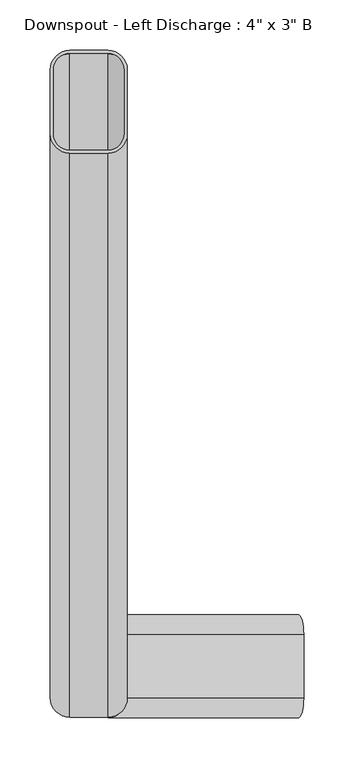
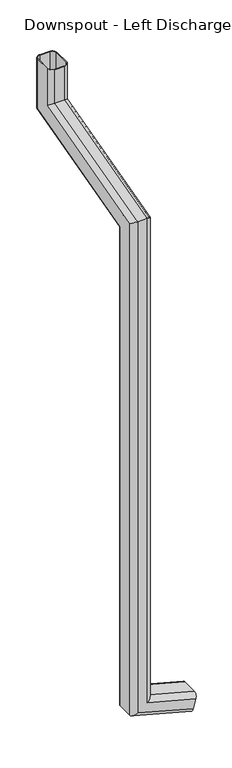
"""IFC4 building model written with IfcOpenShell, lengths in millimetres: proxy geometry."""

from ifc_helpers import new_model, si_unit, frame, origin, place, context, project, spatial, polyline, circle_curve, ellipse_curve, source, transform, mapped, element, save
from ifc_brep_helpers import plane_surface, cylinder_surface, revolved_surface, advanced_brep


def proxy_c430dda0(model_context):
    return source(origin(), model_context, "Body", "AdvancedBrep", [
        advanced_brep(
        [(213.0610056, 171.45, 189.201774), (208.1305028, 152.4, 170.800887), (198.2694972, 152.4, 133.999113), (193.3389944, 171.45, 115.598226), (193.3389944, 234.95, 115.598226), (198.2694972, 254.0, 133.999113), (208.1305028, 254.0, 170.800887), (213.0610056, 234.95, 189.201774), (212.2392552, 171.45, 186.1349595), (212.2392552, 234.95, 186.1349595), (208.1305028, 250.825, 170.800887), (198.2694972, 250.825, 133.999113), (194.1607448, 234.95, 118.6650405), (194.1607448, 171.45, 118.6650405), (198.2694972, 155.575, 133.999113), (208.1305028, 155.575, 170.800887), (19.05, 152.4, 221.464855), (38.1, 171.45, 236.0824341), (38.1, 171.45, 2202.9664149), (19.05, 152.4, 2217.583994), (-38.1, 171.45, 177.6121177), (-19.05, 152.4, 192.2296968), (-19.05, 152.4, 2217.583994), (-38.1, 171.45, 2202.9664149), (-38.1, 234.95, 177.6121177), (-38.1, 730.25, 2352.6964236), (-38.1, 730.25, 2506.1337918), (-38.1, 793.75, 2506.1337918), (-38.1, 793.75, 2303.9711599), (-38.1, 234.95, 2154.2411512), (-19.05, 254.0, 192.2296968), (-19.05, 254.0, 2139.6235721), (38.1, 234.95, 236.0824341), (19.05, 254.0, 221.464855), (19.05, 254.0, 2139.6235721), (38.1, 234.95, 2154.2411512), (38.1, 793.75, 2303.9711599), (38.1, 793.75, 2506.1337918), (38.1, 730.25, 2506.1337918), (38.1, 730.25, 2352.6964236), (34.925, 234.95, 233.646171), (34.925, 171.45, 233.646171), (34.925, 171.45, 2202.9664149), (34.925, 730.25, 2352.6964236), (34.925, 730.25, 2506.1337918), (34.925, 793.75, 2506.1337918), (34.925, 793.75, 2303.9711599), (34.925, 234.95, 2154.2411512), (19.05, 250.825, 221.464855), (19.05, 250.825, 2142.0598352), (-34.925, 234.95, 180.0483808), (-19.05, 250.825, 192.2296968), (-19.05, 250.825, 2142.0598352), (-34.925, 234.95, 2154.2411512), (-34.925, 171.45, 180.0483808), (-34.925, 793.75, 2303.9711599), (-34.925, 793.75, 2506.1337918), (-34.925, 730.25, 2506.1337918), (-34.925, 730.25, 2352.6964236), (-34.925, 171.45, 2202.9664149), (-19.05, 155.575, 192.2296968), (-19.05, 155.575, 2215.1477308), (19.05, 155.575, 221.464855), (19.05, 155.575, 2215.1477308), (19.05, 711.2, 2367.3140028), (-19.05, 711.2, 2367.3140028), (-19.05, 812.8, 2289.3535808), (19.05, 812.8, 2289.3535808), (19.05, 809.625, 2291.789844), (-19.05, 809.625, 2291.789844), (-19.05, 714.375, 2364.8777396), (19.05, 714.375, 2364.8777396), (19.05, 812.8, 2506.1337918), (-19.05, 812.8, 2506.1337918), (-19.05, 711.2, 2506.1337918), (19.05, 711.2, 2506.1337918), (19.05, 714.375, 2506.1337918), (-19.05, 714.375, 2506.1337918), (-19.05, 809.625, 2506.1337918), (19.05, 809.625, 2506.1337918)],
        [
            (0, 1, circle_curve(frame((208.1305028, 171.45, 170.800887), z_axis=(0.9659258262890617, 0.0, -0.2588190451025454), x_axis=(0.0, -1.0, 0.0)), 19.05)),
            (1, 2),
            (2, 3, circle_curve(frame((198.2694972, 171.45, 133.999113), z_axis=(0.9659258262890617, 0.0, -0.2588190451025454), x_axis=(0.0, -1.0, 0.0)), 19.05)),
            (3, 4),
            (4, 5, circle_curve(frame((198.2694972, 234.95, 133.999113), z_axis=(0.9659258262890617, 0.0, -0.2588190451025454), x_axis=(0.0, -1.0, 0.0)), 19.05)),
            (5, 6),
            (6, 7, circle_curve(frame((208.1305028, 234.95, 170.800887), z_axis=(0.9659258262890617, 0.0, -0.2588190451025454), x_axis=(0.0, -1.0, 0.0)), 19.05)),
            (7, 0),
            (8, 9),
            (9, 10, circle_curve(frame((208.1305028, 234.95, 170.800887), z_axis=(-0.9659258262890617, 0.0, 0.2588190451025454), x_axis=(0.0, -1.0, 0.0)), 15.875)),
            (10, 11),
            (11, 12, circle_curve(frame((198.2694972, 234.95, 133.999113), z_axis=(-0.9659258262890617, 0.0, 0.2588190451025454), x_axis=(0.0, -1.0, 0.0)), 15.875)),
            (12, 13),
            (13, 14, circle_curve(frame((198.2694972, 171.45, 133.999113), z_axis=(-0.9659258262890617, 0.0, 0.2588190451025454), x_axis=(0.0, -1.0, 0.0)), 15.875)),
            (14, 15),
            (15, 8, circle_curve(frame((208.1305028, 171.45, 170.800887), z_axis=(-0.9659258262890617, 0.0, 0.2588190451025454), x_axis=(0.0, -1.0, 0.0)), 15.875)),
            (16, 17, ellipse_curve(frame((19.05, 171.45, 221.464855), z_axis=(-0.6087614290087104, 0.0, 0.7933533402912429), x_axis=(-0.7933533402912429, 0.0, -0.6087614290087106)), 24.0119995, 19.05)),
            (17, 18),
            (18, 19, ellipse_curve(frame((19.05, 171.45, 2202.9664149), z_axis=(0.0, -0.6087614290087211, -0.7933533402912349), x_axis=(0.0, 0.793353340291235, -0.6087614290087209)), 24.0119995, 19.05)),
            (19, 16),
            (20, 21, ellipse_curve(frame((-19.05, 171.45, 192.2296968), z_axis=(-0.6087614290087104, 0.0, 0.7933533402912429), x_axis=(-0.7933533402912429, 0.0, -0.6087614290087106)), 24.0119995, 19.05)),
            (21, 22),
            (22, 23, ellipse_curve(frame((-19.05, 171.45, 2202.9664149), z_axis=(0.0, -0.6087614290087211, -0.7933533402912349), x_axis=(0.0, 0.793353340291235, -0.6087614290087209)), 24.0119995, 19.05)),
            (23, 20),
            (24, 20),
            (23, 25),
            (25, 26),
            (26, 27),
            (27, 28),
            (28, 29),
            (29, 24),
            (30, 24, ellipse_curve(frame((-19.05, 234.95, 192.2296968), z_axis=(-0.6087614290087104, 0.0, 0.7933533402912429), x_axis=(-0.7933533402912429, 0.0, -0.6087614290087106)), 24.0119995, 19.05)),
            (29, 31, ellipse_curve(frame((-19.05, 234.95, 2154.2411512), z_axis=(0.0, -0.6087614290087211, -0.7933533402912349), x_axis=(0.0, 0.793353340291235, -0.6087614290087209)), 24.0119995, 19.05)),
            (31, 30),
            (32, 33, ellipse_curve(frame((19.05, 234.95, 221.464855), z_axis=(-0.6087614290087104, 0.0, 0.7933533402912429), x_axis=(-0.7933533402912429, 0.0, -0.6087614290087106)), 24.0119995, 19.05)),
            (33, 34),
            (34, 35, ellipse_curve(frame((19.05, 234.95, 2154.2411512), z_axis=(0.0, -0.6087614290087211, -0.7933533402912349), x_axis=(0.0, 0.793353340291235, -0.6087614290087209)), 24.0119995, 19.05)),
            (35, 32),
            (17, 32),
            (35, 36),
            (36, 37),
            (37, 38),
            (38, 39),
            (39, 18),
            (40, 41),
            (41, 42),
            (42, 43),
            (43, 44),
            (44, 45),
            (45, 46),
            (46, 47),
            (47, 40),
            (48, 40, ellipse_curve(frame((19.05, 234.95, 221.464855), z_axis=(0.6087614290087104, 0.0, -0.7933533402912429), x_axis=(0.7933533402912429, 0.0, 0.6087614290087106)), 20.0099996, 15.875)),
            (47, 49, ellipse_curve(frame((19.05, 234.95, 2154.2411512), z_axis=(0.0, 0.6087614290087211, 0.7933533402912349), x_axis=(0.0, -0.793353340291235, 0.6087614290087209)), 20.0099996, 15.875)),
            (49, 48),
            (50, 51, ellipse_curve(frame((-19.05, 234.95, 192.2296968), z_axis=(0.6087614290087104, 0.0, -0.7933533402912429), x_axis=(0.7933533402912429, 0.0, 0.6087614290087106)), 20.0099996, 15.875)),
            (51, 52),
            (52, 53, ellipse_curve(frame((-19.05, 234.95, 2154.2411512), z_axis=(0.0, 0.6087614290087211, 0.7933533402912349), x_axis=(0.0, -0.793353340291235, 0.6087614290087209)), 20.0099996, 15.875)),
            (53, 50),
            (54, 50),
            (53, 55),
            (55, 56),
            (56, 57),
            (57, 58),
            (58, 59),
            (59, 54),
            (60, 54, ellipse_curve(frame((-19.05, 171.45, 192.2296968), z_axis=(0.6087614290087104, 0.0, -0.7933533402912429), x_axis=(0.7933533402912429, 0.0, 0.6087614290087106)), 20.0099996, 15.875)),
            (59, 61, ellipse_curve(frame((-19.05, 171.45, 2202.9664149), z_axis=(0.0, 0.6087614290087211, 0.7933533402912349), x_axis=(0.0, -0.793353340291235, 0.6087614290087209)), 20.0099996, 15.875)),
            (61, 60),
            (41, 62, ellipse_curve(frame((19.05, 171.45, 221.464855), z_axis=(0.6087614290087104, 0.0, -0.7933533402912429), x_axis=(0.7933533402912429, 0.0, 0.6087614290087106)), 20.0099996, 15.875)),
            (62, 63),
            (63, 42, ellipse_curve(frame((19.05, 171.45, 2202.9664149), z_axis=(0.0, 0.6087614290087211, 0.7933533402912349), x_axis=(0.0, -0.793353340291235, 0.6087614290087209)), 20.0099996, 15.875)),
            (39, 64, ellipse_curve(frame((19.05, 730.25, 2352.6964236), z_axis=(0.0, -0.6087614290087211, -0.7933533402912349), x_axis=(0.0, -0.7933533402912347, 0.6087614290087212)), 24.0119995, 19.05)),
            (64, 19),
            (22, 19),
            (64, 65),
            (65, 22),
            (65, 25, ellipse_curve(frame((-19.05, 730.25, 2352.6964236), z_axis=(0.0, -0.6087614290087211, -0.7933533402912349), x_axis=(0.0, -0.7933533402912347, 0.6087614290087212)), 24.0119995, 19.05)),
            (28, 66, ellipse_curve(frame((-19.05, 793.75, 2303.9711599), z_axis=(0.0, -0.6087614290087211, -0.7933533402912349), x_axis=(0.0, -0.7933533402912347, 0.6087614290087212)), 24.0119995, 19.05)),
            (66, 31),
            (34, 31),
            (66, 67),
            (67, 34),
            (67, 36, ellipse_curve(frame((19.05, 793.75, 2303.9711599), z_axis=(0.0, -0.6087614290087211, -0.7933533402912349), x_axis=(0.0, -0.7933533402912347, 0.6087614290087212)), 24.0119995, 19.05)),
            (46, 68, ellipse_curve(frame((19.05, 793.75, 2303.9711599), z_axis=(0.0, 0.6087614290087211, 0.7933533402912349), x_axis=(0.0, 0.7933533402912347, -0.6087614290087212)), 20.0099996, 15.875)),
            (68, 49),
            (52, 49),
            (68, 69),
            (69, 52),
            (69, 55, ellipse_curve(frame((-19.05, 793.75, 2303.9711599), z_axis=(0.0, 0.6087614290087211, 0.7933533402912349), x_axis=(0.0, 0.7933533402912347, -0.6087614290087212)), 20.0099996, 15.875)),
            (58, 70, ellipse_curve(frame((-19.05, 730.25, 2352.6964236), z_axis=(0.0, 0.6087614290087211, 0.7933533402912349), x_axis=(0.0, 0.7933533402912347, -0.6087614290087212)), 20.0099996, 15.875)),
            (70, 61),
            (63, 61),
            (70, 71),
            (71, 63),
            (71, 43, ellipse_curve(frame((19.05, 730.25, 2352.6964236), z_axis=(0.0, 0.6087614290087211, 0.7933533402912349), x_axis=(0.0, 0.7933533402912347, -0.6087614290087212)), 20.0099996, 15.875)),
            (37, 72, circle_curve(frame((19.05, 793.75, 2506.1337918), z_axis=(0.0, 0.0, 1.0), x_axis=(0.0, -1.0, 0.0)), 19.05)),
            (72, 73),
            (73, 27, circle_curve(frame((-19.05, 793.75, 2506.1337918), z_axis=(0.0, 0.0, 1.0), x_axis=(0.0, -1.0, 0.0)), 19.05)),
            (26, 74, circle_curve(frame((-19.05, 730.25, 2506.1337918), z_axis=(0.0, 0.0, 1.0), x_axis=(0.0, -1.0, 0.0)), 19.05)),
            (74, 75),
            (75, 38, circle_curve(frame((19.05, 730.25, 2506.1337918), z_axis=(0.0, 0.0, 1.0), x_axis=(0.0, -1.0, 0.0)), 19.05)),
            (44, 76, circle_curve(frame((19.05, 730.25, 2506.1337918), z_axis=(0.0, 0.0, -1.0), x_axis=(0.0, -1.0, 0.0)), 15.875)),
            (76, 77),
            (77, 57, circle_curve(frame((-19.05, 730.25, 2506.1337918), z_axis=(0.0, 0.0, -1.0), x_axis=(0.0, -1.0, 0.0)), 15.875)),
            (56, 78, circle_curve(frame((-19.05, 793.75, 2506.1337918), z_axis=(0.0, 0.0, -1.0), x_axis=(0.0, -1.0, 0.0)), 15.875)),
            (78, 79),
            (79, 45, circle_curve(frame((19.05, 793.75, 2506.1337918), z_axis=(0.0, 0.0, -1.0), x_axis=(0.0, -1.0, 0.0)), 15.875)),
            (75, 64),
            (74, 65),
            (73, 66),
            (72, 67),
            (79, 68),
            (78, 69),
            (77, 70),
            (76, 71),
            (0, 17),
            (16, 1),
            (21, 2),
            (20, 3),
            (24, 4),
            (30, 5),
            (33, 6),
            (32, 7),
            (8, 41),
            (40, 9),
            (48, 10),
            (51, 11),
            (50, 12),
            (54, 13),
            (60, 14),
            (62, 15),
        ],
        [
            plane_surface(frame((203.2, 147.5002825, 152.4), z_axis=(0.9659258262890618, 0.0, -0.2588190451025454), x_axis=(0.2588190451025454, 0.0, 0.9659258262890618))),
            cylinder_surface(frame((19.05, 171.45, 206.8472759), z_axis=(0.0, 0.0, -1.0), x_axis=(0.0, -1.0, 0.0)), 19.05),
            cylinder_surface(frame((-19.05, 171.45, 206.8472759), z_axis=(0.0, 0.0, -1.0), x_axis=(0.0, -1.0, 0.0)), 19.05),
            plane_surface(frame((-38.1, 171.45, 177.6121177), z_axis=(-1.0, 0.0, 0.0), x_axis=(0.0, 0.0, 1.0))),
            cylinder_surface(frame((-19.05, 234.95, 206.8472759), z_axis=(0.0, 0.0, -1.0), x_axis=(0.0, -1.0, 0.0)), 19.05),
            cylinder_surface(frame((19.05, 234.95, 206.8472759), z_axis=(0.0, 0.0, -1.0), x_axis=(0.0, -1.0, 0.0)), 19.05),
            plane_surface(frame((38.1, 234.95, 236.0824341), z_axis=(1.0, 0.0, 0.0), x_axis=(0.0, 0.0, 1.0))),
            plane_surface(frame((34.925, 171.45, 233.646171), z_axis=(-1.0, 0.0, 0.0), x_axis=(0.0, 0.0, 1.0))),
            revolved_surface(polyline([(19.05, 219.075, 2166.4224671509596), (19.05, 219.075, 209.2835390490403)]), (19.05, 234.95, 206.8472759), (0.0, 0.0, 1.0)),
            revolved_surface(polyline([(-19.05, 219.075, 2166.4224671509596), (-19.05, 219.075, 180.0483808)]), (-19.05, 234.95, 206.8472759), (0.0, 0.0, 1.0)),
            plane_surface(frame((-34.925, 234.95, 180.0483808), z_axis=(1.0, 0.0, 0.0), x_axis=(0.0, 0.0, 1.0))),
            revolved_surface(polyline([(-19.05, 155.575, 2215.1477308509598), (-19.05, 155.575, 180.0483808)]), (-19.05, 171.45, 206.8472759), (0.0, 0.0, 1.0)),
            revolved_surface(polyline([(19.05, 155.575, 2215.1477308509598), (19.05, 155.575, 209.2835390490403)]), (19.05, 171.45, 206.8472759), (0.0, 0.0, 1.0)),
            cylinder_surface(frame((19.05, 194.9824953, 2209.271928), z_axis=(0.0, -0.9659258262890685, -0.25881904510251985), x_axis=(0.0, -0.25881904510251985, 0.9659258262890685)), 19.05),
            plane_surface(frame((19.05, 152.4, 2217.583994), z_axis=(0.0, -0.2588190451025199, 0.9659258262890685), x_axis=(0.0, 0.9659258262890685, 0.2588190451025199))),
            cylinder_surface(frame((-19.05, 194.9824953, 2209.271928), z_axis=(0.0, -0.9659258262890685, -0.25881904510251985), x_axis=(0.0, -0.25881904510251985, 0.9659258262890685)), 19.05),
            cylinder_surface(frame((-19.05, 211.4175047, 2147.9356381), z_axis=(0.0, -0.9659258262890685, -0.25881904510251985), x_axis=(0.0, -0.25881904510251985, 0.9659258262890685)), 19.05),
            plane_surface(frame((-19.05, 254.0, 2139.6235721), z_axis=(0.0, 0.25881904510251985, -0.9659258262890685), x_axis=(0.0, 0.9659258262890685, 0.25881904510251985))),
            cylinder_surface(frame((19.05, 211.4175047, 2147.9356381), z_axis=(0.0, -0.9659258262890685, -0.25881904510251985), x_axis=(0.0, -0.25881904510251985, 0.9659258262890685)), 19.05),
            revolved_surface(polyline([(19.05, 801.4074953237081, 2322.457988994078), (19.05, 219.07499998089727, 2166.4224671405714)]), (19.05, 211.4175047, 2147.9356381), (0.0, 0.9659258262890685, 0.25881904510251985)),
            plane_surface(frame((19.05, 250.825, 2142.0598352), z_axis=(0.0, -0.2588190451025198, 0.9659258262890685), x_axis=(0.0, 0.9659258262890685, 0.2588190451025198))),
            revolved_surface(polyline([(-19.05, 801.4074953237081, 2322.457988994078), (-19.05, 219.07499998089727, 2166.4224671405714)]), (-19.05, 211.4175047, 2147.9356381), (0.0, 0.9659258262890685, 0.25881904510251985)),
            revolved_surface(polyline([(-19.05, 737.9074953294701, 2371.1832526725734), (-19.05, 155.5749999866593, 2215.1477308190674)]), (-19.05, 194.9824953, 2209.271928), (0.0, 0.9659258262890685, 0.25881904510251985)),
            plane_surface(frame((-19.05, 155.575, 2215.1477308), z_axis=(0.0, 0.25881904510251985, -0.9659258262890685), x_axis=(0.0, 0.9659258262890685, 0.25881904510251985))),
            revolved_surface(polyline([(19.05, 737.9074953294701, 2371.1832526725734), (19.05, 155.5749999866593, 2215.1477308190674)]), (19.05, 194.9824953, 2209.271928), (0.0, 0.9659258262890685, 0.25881904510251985)),
            plane_surface(frame((0.0, 706.3002825, 2506.1337918), z_axis=(0.0, 0.0, 1.0), x_axis=(1.0, 0.0, 0.0))),
            cylinder_surface(frame((19.05, 730.25, 2328.3337918), z_axis=(0.0, 0.0, -1.0), x_axis=(0.0, -1.0, 0.0)), 19.05),
            plane_surface(frame((19.05, 711.2, 2367.3140028), z_axis=(0.0, -1.0, 0.0), x_axis=(0.0, 0.0, 1.0))),
            cylinder_surface(frame((-19.05, 730.25, 2328.3337918), z_axis=(0.0, 0.0, -1.0), x_axis=(0.0, -1.0, 0.0)), 19.05),
            cylinder_surface(frame((-19.05, 793.75, 2328.3337918), z_axis=(0.0, 0.0, -1.0), x_axis=(0.0, -1.0, 0.0)), 19.05),
            plane_surface(frame((-19.05, 812.8, 2289.3535808), z_axis=(0.0, 1.0, 0.0), x_axis=(0.0, 0.0, 1.0))),
            cylinder_surface(frame((19.05, 793.75, 2328.3337918), z_axis=(0.0, 0.0, -1.0), x_axis=(0.0, -1.0, 0.0)), 19.05),
            revolved_surface(polyline([(19.05, 777.875, 2506.1337918), (19.05, 777.875, 2291.7898439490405)]), (19.05, 793.75, 2328.3337918), (0.0, 0.0, 1.0)),
            plane_surface(frame((19.05, 809.625, 2291.789844), z_axis=(0.0, -1.0, 0.0), x_axis=(0.0, 0.0, 1.0))),
            revolved_surface(polyline([(-19.05, 777.875, 2506.1337918), (-19.05, 777.875, 2291.7898439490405)]), (-19.05, 793.75, 2328.3337918), (0.0, 0.0, 1.0)),
            revolved_surface(polyline([(-19.05, 714.375, 2506.1337918), (-19.05, 714.375, 2340.51510764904)]), (-19.05, 730.25, 2328.3337918), (0.0, 0.0, 1.0)),
            plane_surface(frame((-19.05, 714.375, 2364.8777396), z_axis=(0.0, 1.0, 0.0), x_axis=(0.0, 0.0, 1.0))),
            revolved_surface(polyline([(19.05, 714.375, 2506.1337918), (19.05, 714.375, 2340.51510764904)]), (19.05, 730.25, 2328.3337918), (0.0, 0.0, 1.0)),
            cylinder_surface(frame((208.1305028, 171.45, 170.800887), z_axis=(0.9659258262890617, 0.0, -0.2588190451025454), x_axis=(0.0, -1.0, 0.0)), 19.05),
            plane_surface(frame((208.1305028, 152.4, 170.800887), z_axis=(0.0, -1.0000000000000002, 0.0), x_axis=(-0.9659258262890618, 0.0, 0.2588190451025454))),
            cylinder_surface(frame((198.2694972, 171.45, 133.999113), z_axis=(0.9659258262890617, 0.0, -0.2588190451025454), x_axis=(0.0, -1.0, 0.0)), 19.05),
            plane_surface(frame((193.3389944, 171.45, 115.598226), z_axis=(-0.2588190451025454, 0.0, -0.9659258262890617), x_axis=(-0.9659258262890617, 0.0, 0.2588190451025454))),
            cylinder_surface(frame((198.2694972, 234.95, 133.999113), z_axis=(0.9659258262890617, 0.0, -0.2588190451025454), x_axis=(0.0, -1.0, 0.0)), 19.05),
            plane_surface(frame((198.2694972, 254.0, 133.999113), z_axis=(0.0, 1.0000000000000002, 0.0), x_axis=(-0.9659258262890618, 0.0, 0.25881904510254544))),
            cylinder_surface(frame((208.1305028, 234.95, 170.800887), z_axis=(0.9659258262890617, 0.0, -0.2588190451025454), x_axis=(0.0, -1.0, 0.0)), 19.05),
            plane_surface(frame((213.0610056, 234.95, 189.201774), z_axis=(0.25881904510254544, 0.0, 0.9659258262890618), x_axis=(-0.9659258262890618, 0.0, 0.25881904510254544))),
            plane_surface(frame((212.2392552, 171.45, 186.1349595), z_axis=(-0.2588190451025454, 0.0, -0.9659258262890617), x_axis=(-0.9659258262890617, 0.0, 0.2588190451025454))),
            revolved_surface(polyline([(7.283752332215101, 219.075, 224.61761159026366), (208.13050285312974, 219.075, 170.80088698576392)]), (208.1305028, 234.95, 170.800887), (-0.9659258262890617, 0.0, 0.2588190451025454)),
            plane_surface(frame((208.1305028, 250.825, 170.800887), z_axis=(0.0, -1.0000000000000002, 0.0), x_axis=(-0.9659258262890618, 0.0, 0.2588190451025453))),
            revolved_surface(polyline([(-30.816247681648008, 219.075, 195.38245333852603), (198.2694972, 219.075, 133.999113)]), (198.2694972, 234.95, 133.999113), (-0.9659258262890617, 0.0, 0.2588190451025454)),
            plane_surface(frame((194.1607448, 234.95, 118.6650405), z_axis=(0.2588190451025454, 0.0, 0.9659258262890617), x_axis=(-0.9659258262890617, 0.0, 0.2588190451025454))),
            revolved_surface(polyline([(-30.816247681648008, 155.575, 195.38245333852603), (198.2694972, 155.575, 133.999113)]), (198.2694972, 171.45, 133.999113), (-0.9659258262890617, 0.0, 0.2588190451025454)),
            plane_surface(frame((198.2694972, 155.575, 133.999113), z_axis=(0.0, 1.0, 0.0), x_axis=(-0.9659258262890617, 0.0, 0.2588190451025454))),
            revolved_surface(polyline([(7.283752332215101, 155.575, 224.61761159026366), (208.13050285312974, 155.575, 170.80088698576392)]), (208.1305028, 171.45, 170.800887), (-0.9659258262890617, 0.0, 0.2588190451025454)),
        ],
        [
            (0, [[1, 2, 3, 4, 5, 6, 7, 8], [9, 10, 11, 12, 13, 14, 15, 16]]),
            (1, [[17, 18, 19, 20]]),
            (2, [[21, 22, 23, 24]]),
            (3, [[25, -24, 26, 27, 28, 29, 30, 31]]),
            (4, [[32, -31, 33, 34]]),
            (5, [[35, 36, 37, 38]]),
            (6, [[39, -38, 40, 41, 42, 43, 44, -18]]),
            (7, [[45, 46, 47, 48, 49, 50, 51, 52]]),
            (8, [[53, -52, 54, 55]]),
            (9, [[56, 57, 58, 59]]),
            (10, [[60, -59, 61, 62, 63, 64, 65, 66]]),
            (11, [[67, -66, 68, 69]]),
            (12, [[70, 71, 72, -46]]),
            (13, [[-19, -44, 73, 74]]),
            (14, [[75, -74, 76, 77]]),
            (15, [[-23, -77, 78, -26]]),
            (16, [[-33, -30, 79, 80]]),
            (17, [[81, -80, 82, 83]]),
            (18, [[-37, -83, 84, -40]]),
            (19, [[-54, -51, 85, 86]]),
            (20, [[87, -86, 88, 89]]),
            (21, [[-58, -89, 90, -61]]),
            (22, [[-68, -65, 91, 92]]),
            (23, [[93, -92, 94, 95]]),
            (24, [[-72, -95, 96, -47]]),
            (25, [[-42, 97, 98, 99, -28, 100, 101, 102], [103, 104, 105, -63, 106, 107, 108, -49]]),
            (26, [[-73, -43, -102, 109]]),
            (27, [[-76, -109, -101, 110]]),
            (28, [[-78, -110, -100, -27]]),
            (29, [[-79, -29, -99, 111]]),
            (30, [[-82, -111, -98, 112]]),
            (31, [[-84, -112, -97, -41]]),
            (32, [[-85, -50, -108, 113]]),
            (33, [[-88, -113, -107, 114]]),
            (34, [[-90, -114, -106, -62]]),
            (35, [[-91, -64, -105, 115]]),
            (36, [[-94, -115, -104, 116]]),
            (37, [[-96, -116, -103, -48]]),
            (38, [[-1, 117, -17, 118]]),
            (39, [[-2, -118, -20, -75, -22, 119]]),
            (40, [[-3, -119, -21, 120]]),
            (41, [[-4, -120, -25, 121]]),
            (42, [[-5, -121, -32, 122]]),
            (43, [[-6, -122, -34, -81, -36, 123]]),
            (44, [[-7, -123, -35, 124]]),
            (45, [[-8, -124, -39, -117]]),
            (46, [[-9, 125, -45, 126]]),
            (47, [[-10, -126, -53, 127]]),
            (48, [[-11, -127, -55, -87, -57, 128]]),
            (49, [[-12, -128, -56, 129]]),
            (50, [[-13, -129, -60, 130]]),
            (51, [[-14, -130, -67, 131]]),
            (52, [[-15, -131, -69, -93, -71, 132]]),
            (53, [[-16, -132, -70, -125]]),
        ],
    ),
    ])


if __name__ == "__main__":
    model = new_model("IFC4")
    model_context = context("Model", 3, world=origin())
    ifc_project = project(units=[si_unit("LENGTHUNIT", "METRE", prefix="MILLI")], contexts=[model_context])
    site = spatial("IfcSite", under=ifc_project)
    building = spatial("IfcBuilding", under=site)
    placement = place(None, origin())
    proxy_shape = proxy_c430dda0(model_context)
    element("IfcBuildingElementProxy", 1, Name="Downspout - Left Discharge : 4\" x 3\" B", ObjectType="Downspout - Left Discharge : 4\" x 3\" B", at=placement, inside=building, context=model_context, shape_type="MappedRepresentation", body=[
        mapped(proxy_shape, transform((0.0, 0.0, 0.0), x_axis=(1.0, 0.0, 0.0), y_axis=(0.0, 1.0, 0.0), z_axis=(0.0, 0.0, 1.0))),
    ])
    save(model, "model.ifc")
